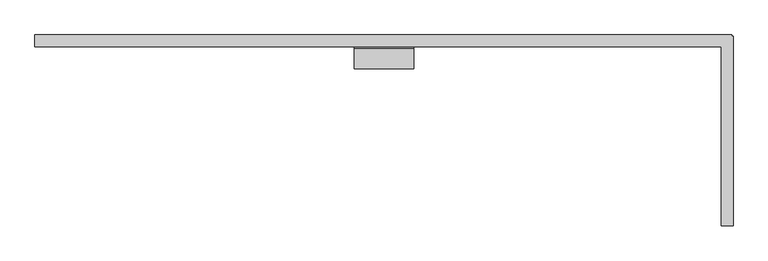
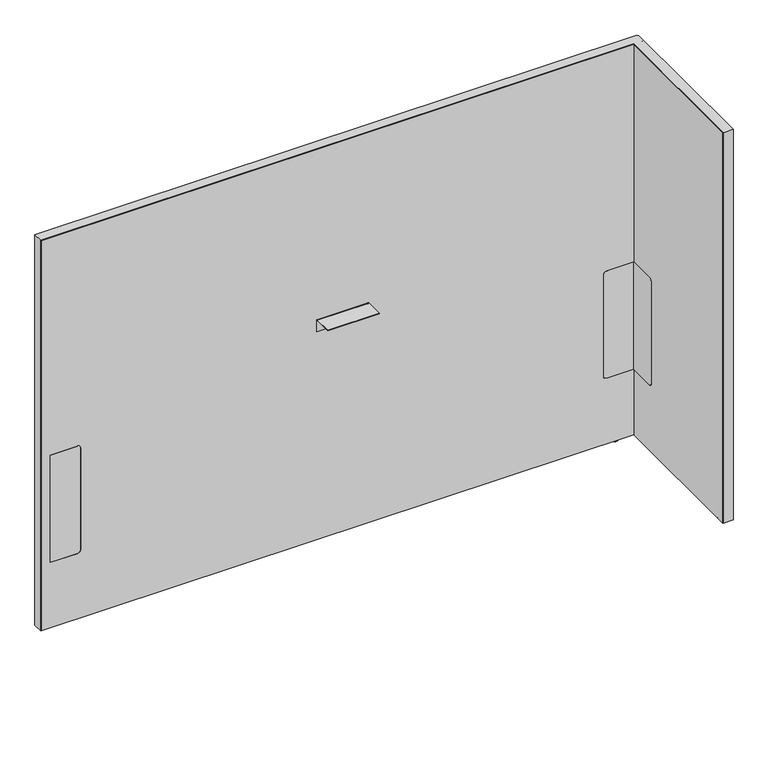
"""IFC4 building model written with IfcOpenShell, lengths in millimetres: furniture geometry, Steelcase - Answer Solution - Boundary Screen - L Return - Single Sided : 48H x 69W."""

from ifc_helpers import new_model, si_unit, point, frame, frame_2d, origin, place, context, project, spatial, polyline, circle_curve, ellipse_curve, trimmed, segment, composite_curve, outline, extrude, faceted_brep, source, transform, mapped, element, save
from ifc_brep_helpers import plane_surface, cylinder_surface, revolved_surface, advanced_brep


def furniture_feb51c63(model_context):
    return source(origin(), model_context, "Body", "SolidModel", [
        extrude(outline(composite_curve([segment(polyline([(-109.3501471, 549.6162029), (-29.0550397, 549.6162029), (-29.0550397, 213.7762137), (-109.3501471, 213.7762137)]), True, "CONTINUOUS"), segment(trimmed(circle_curve(frame_2d((-109.3501471, 223.9362137)), 10.16), [point((-109.3501471, 213.7762137))], [point((-119.5101471, 223.9362137))], False, "CARTESIAN"), True, "CONTINUOUS"), segment(polyline([(-119.5101471, 223.9362137), (-119.5101471, 539.4562029)]), True, "CONTINUOUS"), segment(trimmed(circle_curve(frame_2d((-109.3501471, 539.4562029)), 10.16), [point((-119.5101471, 539.4562029))], [point((-109.3501471, 549.6162029))], False, "CARTESIAN"), True, "CONTINUOUS")], self_intersect=False)), frame((1982.4191891, 0.0, 0.0), z_axis=(1.0, 0.0, 0.0), x_axis=(0.0, 1.0, 0.0)), (0.0, 0.0, 1.0), 0.6401544),
        advanced_brep(
        [(1997.2672074, -448.0136072, 0.0), (2004.2216144, -448.0136072, 0.0), (1990.3128003, -448.0136072, 0.0), (2005.6762685, -448.0136072, 1.2700001), (1988.8581463, -448.0136072, 1.2700001), (2005.6762685, -448.0136072, 2.9673238), (1988.8581463, -448.0136072, 2.9673238), (2006.6427877, -448.0136072, 2.9673238), (1987.891627, -448.0136072, 2.9673238), (2006.6427877, -448.0136072, 9.9059849), (1987.891627, -448.0136072, 9.9059849), (1997.2672074, -448.0136072, 9.9059849)],
        [
            (0, 1),
            (1, 2, circle_curve(frame((1997.2672074, -448.0136072, 0.0), z_axis=(0.0, 0.0, -1.0), x_axis=(1.0, 0.0, 0.0)), 6.9544071)),
            (2, 0),
            (2, 1, circle_curve(frame((1997.2672074, -448.0136072, 0.0), z_axis=(0.0, 0.0, -1.0), x_axis=(1.0, 0.0, 0.0)), 6.9544071)),
            (1, 3, circle_curve(frame((2004.3945484, -448.0136072, 1.2700001), z_axis=(0.0, -1.0, 0.0), x_axis=(0.0, 0.0, 1.0)), 1.2817201)),
            (3, 4, circle_curve(frame((1997.2672074, -448.0136072, 1.2700001), z_axis=(0.0, 0.0, -1.0), x_axis=(1.0, 0.0, 0.0)), 8.4090611)),
            (4, 2, circle_curve(frame((1990.1398663, -448.0136072, 1.2700001), z_axis=(0.0, -1.0, 0.0), x_axis=(0.0, 0.0, 1.0)), 1.2817201)),
            (4, 3, circle_curve(frame((1997.2672074, -448.0136072, 1.2700001), z_axis=(0.0, 0.0, -1.0), x_axis=(1.0, 0.0, 0.0)), 8.4090611)),
            (3, 5),
            (5, 6, circle_curve(frame((1997.2672074, -448.0136072, 2.9673238), z_axis=(0.0, 0.0, -1.0), x_axis=(1.0, 0.0, 0.0)), 8.4090611)),
            (6, 4),
            (6, 5, circle_curve(frame((1997.2672074, -448.0136072, 2.9673238), z_axis=(0.0, 0.0, -1.0), x_axis=(1.0, 0.0, 0.0)), 8.4090611)),
            (5, 7),
            (7, 8, circle_curve(frame((1997.2672074, -448.0136072, 2.9673238), z_axis=(0.0, 0.0, -1.0), x_axis=(1.0, 0.0, 0.0)), 9.3755804)),
            (8, 6),
            (8, 7, circle_curve(frame((1997.2672074, -448.0136072, 2.9673238), z_axis=(0.0, 0.0, -1.0), x_axis=(1.0, 0.0, 0.0)), 9.3755804)),
            (7, 9),
            (9, 10, circle_curve(frame((1997.2672074, -448.0136072, 9.9059849), z_axis=(0.0, 0.0, -1.0), x_axis=(1.0, 0.0, 0.0)), 9.3755804)),
            (10, 8),
            (10, 9, circle_curve(frame((1997.2672074, -448.0136072, 9.9059849), z_axis=(0.0, 0.0, -1.0), x_axis=(1.0, 0.0, 0.0)), 9.3755804)),
            (9, 11),
            (11, 10),
        ],
        [
            plane_surface(frame((1997.2672074, -448.0136072, 0.0), z_axis=(0.0, 0.0, -1.0), x_axis=(1.0, 0.0, 0.0))),
            revolved_surface(trimmed(ellipse_curve(frame((2004.3945484, -448.0136072, 1.2700001), z_axis=(0.0, 1.0, 0.0), x_axis=(0.0, 0.0, 1.0)), 1.2817201, 1.2817201), [point((2005.6762685, -448.0136072, 1.2700001))], [point((2004.2216144, -448.0136072, 0.0))], True, "CARTESIAN"), (1997.2672074, -448.0136072, 9.9059849), (0.0, 0.0, -1.0)),
            cylinder_surface(frame((1997.2672074, -448.0136072, 9.9059849), z_axis=(0.0, 0.0, -1.0), x_axis=(1.0, 0.0, 0.0)), 8.4090611),
            plane_surface(frame((1997.2672074, -448.0136072, 2.9673238), z_axis=(0.0, 0.0, -1.0), x_axis=(1.0, 0.0, 0.0))),
            cylinder_surface(frame((1997.2672074, -448.0136072, 9.9059849), z_axis=(0.0, 0.0, -1.0), x_axis=(1.0, 0.0, 0.0)), 9.3755804),
            plane_surface(frame((1997.2672074, -448.0136072, 9.9059849), z_axis=(0.0, 0.0, 1.0), x_axis=(1.0, 0.0, 0.0))),
        ],
        [
            (0, [[1, 2, 3]]),
            (0, [[-3, 4, -1]]),
            (1, [[-2, 5, 6, 7]]),
            (1, [[-4, -7, 8, -5]]),
            (2, [[-6, 9, 10, 11]]),
            (2, [[-8, -11, 12, -9]]),
            (3, [[-10, 13, 14, 15]]),
            (3, [[-12, -15, 16, -13]]),
            (4, [[-14, 17, 18, 19]]),
            (4, [[-16, -19, 20, -17]]),
            (5, [[-18, 21, 22]]),
            (5, [[-20, -22, -21]]),
        ],
    ),
        faceted_brep([(2008.8531179, 0.0, 1230.122), (2008.8531179, 0.0, 9.9059849), (2007.8621491, 0.0, 9.9059849), (2007.8621491, 0.0, 1229.142118), (230.8097779, 0.0, 1229.142118), (230.8097779, 0.0, 9.9059849), (229.8191891, 0.0, 9.9059849), (229.8191891, 0.0, 1230.122), (229.8191891, -29.6898332, 1230.122), (229.8191891, -29.6898332, 9.9059849), (230.8097779, -29.6898332, 9.9059849), (230.8097779, -29.6898332, 1229.142118), (1982.4191891, -29.6898332, 1229.142118), (1982.4191891, -29.6898332, 1230.122), (2007.8621491, -29.6898332, 1229.142118), (2007.8621491, -29.6898332, 9.9059849), (2008.8531179, -29.6898332, 9.9059849), (2008.8531179, -29.6898332, 1229.142118), (2008.8531179, -3.2625916, 1230.122), (2008.8531179, -3.2625916, 9.9059849), (2008.8531179, -4.252647, 9.9059849), (2008.8531179, -4.252647, 1229.142118), (2012.1152256, -3.2625916, 9.9059849), (2012.1152256, -4.252647, 9.9059849), (2007.8621491, -4.252647, 9.9059849), (1982.4191891, -4.252647, 9.9059849), (1982.4191891, -3.2625916, 9.9059849), (2007.8621491, -3.2625916, 9.9059849), (1982.4191891, -486.8898332, 1230.122), (2012.1152256, -486.8898332, 1230.122), (2012.1152256, -3.2625916, 1230.122), (2007.8621491, -3.2625916, 1229.142118), (2007.8621491, -4.252647, 1229.142118), (1982.4191891, -3.2625916, 1229.142118), (1982.4191891, -4.252647, 1229.142118), (2012.1152256, -4.252647, 1229.142118), (2012.1152256, -485.899196, 1229.142118), (1982.4191891, -485.899196, 1229.142118), (1982.4191891, -485.899196, 9.9059849), (1982.4191891, -486.8898332, 9.9059849), (2012.1152256, -486.8898332, 9.9059849), (2012.1152256, -485.899196, 9.9059849)], [[[0, 1, 2, 3, 4, 5, 6, 7]], [[8, 9, 10, 11, 12, 13]], [[14, 15, 16, 17]], [[1, 0, 18, 19]], [[17, 16, 20, 21]], [[2, 1, 19, 22, 23, 20, 16, 15, 24, 25, 26, 27]], [[7, 6, 9, 8]], [[0, 7, 8, 13, 28, 29, 30, 18]], [[3, 2, 27, 31]], [[15, 14, 32, 24]], [[4, 3, 31, 33, 34, 32, 14, 17, 21, 35, 36, 37, 12, 11]], [[5, 4, 11, 10]], [[6, 5, 10, 9]], [[26, 25, 34, 33]], [[37, 38, 39, 28, 13, 12]], [[29, 40, 41, 36, 35, 23, 22, 30]], [[27, 26, 33, 31]], [[30, 22, 19, 18]], [[34, 25, 24, 32]], [[23, 35, 21, 20]], [[38, 37, 36, 41]], [[39, 38, 41, 40]], [[28, 39, 40, 29]]]),
        extrude(outline(composite_curve([segment(polyline([(-86.8398151, 696.4680019), (-86.8398151, 698.5), (-34.9450855, 698.5)]), True, "CONTINUOUS"), segment(trimmed(circle_curve(frame_2d((-34.9450855, 693.2447477)), 5.2552523), [point((-34.9450855, 698.5))], [point((-29.6898332, 693.2447477))], False, "CARTESIAN"), True, "CONTINUOUS"), segment(polyline([(-29.6898332, 693.2447477), (-29.6898332, 660.4), (-31.7218162, 660.4), (-31.7218162, 693.0058743)]), True, "CONTINUOUS"), segment(trimmed(circle_curve(frame_2d((-35.1839438, 693.0058743)), 3.4621276), [point((-31.7218162, 693.0058743))], [point((-35.1839438, 696.4680019))], True, "CARTESIAN"), True, "CONTINUOUS"), segment(polyline([(-35.1839438, 696.4680019), (-86.8398151, 696.4680019)]), True, "CONTINUOUS")], self_intersect=False)), frame((1044.7685899, 0.0, 0.0), z_axis=(1.0, 0.0, 0.0), x_axis=(0.0, 1.0, 0.0)), (0.0, 0.0, 1.0), 152.4000969),
        advanced_brep(
        [(1934.9246853, -23.7588726, 9.9059849), (1934.9246853, -5.9309607, 9.9059849), (1934.9246853, -14.8449166, 9.9059849), (1934.9246853, -23.7588726, 2.9673238), (1934.9246853, -5.9309607, 2.9673238), (1934.9246853, -22.7915354, 2.9673238), (1934.9246853, -6.8982978, 2.9673238), (1934.9246853, -22.7915354, 1.6569081), (1934.9246853, -6.8982978, 1.6569081), (1934.9246853, -21.1346274, 0.0), (1934.9246853, -8.5552059, 0.0), (1934.9246853, -14.8449166, 0.0)],
        [
            (0, 1, circle_curve(frame((1934.9246853, -14.8449166, 9.9059849), z_axis=(0.0, 0.0, 1.0), x_axis=(0.0, 1.0, 0.0)), 8.913956)),
            (1, 2),
            (2, 0),
            (1, 0, circle_curve(frame((1934.9246853, -14.8449166, 9.9059849), z_axis=(0.0, 0.0, 1.0), x_axis=(0.0, 1.0, 0.0)), 8.913956)),
            (3, 4, circle_curve(frame((1934.9246853, -14.8449166, 2.9673238), z_axis=(0.0, 0.0, 1.0), x_axis=(0.0, 1.0, 0.0)), 8.913956)),
            (4, 1),
            (0, 3),
            (4, 3, circle_curve(frame((1934.9246853, -14.8449166, 2.9673238), z_axis=(0.0, 0.0, 1.0), x_axis=(0.0, 1.0, 0.0)), 8.913956)),
            (5, 6, circle_curve(frame((1934.9246853, -14.8449166, 2.9673238), z_axis=(0.0, 0.0, 1.0), x_axis=(0.0, 1.0, 0.0)), 7.9466188)),
            (6, 4),
            (3, 5),
            (6, 5, circle_curve(frame((1934.9246853, -14.8449166, 2.9673238), z_axis=(0.0, 0.0, 1.0), x_axis=(0.0, 1.0, 0.0)), 7.9466188)),
            (7, 8, circle_curve(frame((1934.9246853, -14.8449166, 1.6569081), z_axis=(0.0, 0.0, 1.0), x_axis=(0.0, 1.0, 0.0)), 7.9466188)),
            (8, 6),
            (5, 7),
            (8, 7, circle_curve(frame((1934.9246853, -14.8449166, 1.6569081), z_axis=(0.0, 0.0, 1.0), x_axis=(0.0, 1.0, 0.0)), 7.9466188)),
            (9, 10, circle_curve(frame((1934.9246853, -14.8449166, 0.0), z_axis=(0.0, 0.0, 1.0), x_axis=(0.0, 1.0, 0.0)), 6.2897107)),
            (10, 8, circle_curve(frame((1934.9246853, -8.5552059, 1.6569081), z_axis=(1.0, 0.0, 0.0), x_axis=(0.0, 1.0, 0.0)), 1.6569081)),
            (7, 9, circle_curve(frame((1934.9246853, -21.1346274, 1.6569081), z_axis=(1.0, 0.0, 0.0), x_axis=(0.0, -1.0, 0.0)), 1.6569081)),
            (10, 9, circle_curve(frame((1934.9246853, -14.8449166, 0.0), z_axis=(0.0, 0.0, 1.0), x_axis=(0.0, 1.0, 0.0)), 6.2897107)),
            (11, 10),
            (9, 11),
        ],
        [
            plane_surface(frame((1934.9246853, -14.8449166, 9.9059849), z_axis=(0.0, 0.0, 1.0), x_axis=(0.0, 1.0, 0.0))),
            cylinder_surface(frame((1934.9246853, -14.8449166, 9.9059849), z_axis=(0.0, 0.0, -1.0), x_axis=(0.0, 1.0, 0.0)), 8.913956),
            plane_surface(frame((1934.9246853, -14.8449166, 2.9673238), z_axis=(0.0, 0.0, -1.0), x_axis=(0.0, 1.0, 0.0))),
            cylinder_surface(frame((1934.9246853, -14.8449166, 9.9059849), z_axis=(0.0, 0.0, -1.0), x_axis=(0.0, 1.0, 0.0)), 7.9466188),
            revolved_surface(trimmed(ellipse_curve(frame((1934.9246853, -8.5552059, 1.6569081), z_axis=(-1.0, 0.0, 0.0), x_axis=(0.0, 1.0, 0.0)), 1.6569081, 1.6569081), [point((1934.9246853, -6.8982978, 1.6569081))], [point((1934.9246853, -8.5552059, 0.0))], True, "CARTESIAN"), (1934.9246853, -14.8449166, 9.9059849), (0.0, 0.0, -1.0)),
            plane_surface(frame((1934.9246853, -14.8449166, 0.0), z_axis=(0.0, 0.0, -1.0), x_axis=(0.0, 1.0, 0.0))),
        ],
        [
            (0, [[1, 2, 3]]),
            (0, [[4, -3, -2]]),
            (1, [[5, 6, -1, 7]]),
            (1, [[8, -7, -4, -6]]),
            (2, [[9, 10, -5, 11]]),
            (2, [[12, -11, -8, -10]]),
            (3, [[13, 14, -9, 15]]),
            (3, [[16, -15, -12, -14]]),
            (4, [[17, 18, -13, 19]]),
            (4, [[20, -19, -16, -18]]),
            (5, [[21, -17, 22]]),
            (5, [[-22, -20, -21]]),
        ],
    ),
        advanced_brep(
        [(230.8097779, 0.0, 1229.142118), (2007.8621491, 0.0, 1229.142118), (2007.8621491, 0.0, 9.9059849), (230.8097779, 0.0, 9.9059849), (347.9483813, -29.0550397, 539.4562029), (337.7883813, -29.0550397, 549.6162029), (258.1344836, -29.0550397, 549.6162029), (258.1344836, -29.0550397, 213.7762137), (337.7883813, -29.0550397, 213.7762137), (347.9483813, -29.0550397, 223.9362137), (1983.0593435, -29.0550397, 213.7762137), (1983.0593435, -29.0550397, 549.6162029), (1902.5109268, -29.0550397, 549.6162029), (1892.3509268, -29.0550397, 539.4562029), (1892.3509268, -29.0550397, 223.9362137), (1902.5109268, -29.0550397, 213.7762137), (230.8097779, -29.6898332, 1229.142118), (230.8097779, -29.6898332, 9.9059849), (1982.4191891, -29.6898332, 9.9059849), (1982.4191891, -29.6898332, 213.7762137), (1902.5109268, -29.6898332, 213.7762137), (1892.3509268, -29.6898332, 223.9362137), (1892.3509268, -29.6898332, 539.4562029), (1902.5109268, -29.6898332, 549.6162029), (1982.4191891, -29.6898332, 549.6162029), (1982.4191891, -29.6898332, 1229.142118), (337.7883813, -29.6898332, 549.6162029), (347.9483813, -29.6898332, 539.4562029), (347.9483813, -29.6898332, 223.9362137), (337.7883813, -29.6898332, 213.7762137), (258.1344836, -29.6898332, 213.7762137), (258.1344836, -29.6898332, 549.6162029), (2007.8621491, -4.252647, 9.9059849), (2012.1152256, -4.252647, 9.9059849), (2012.1152256, -485.899196, 9.9059849), (1982.4191891, -485.899196, 9.9059849), (2007.8621491, -4.252647, 1229.142118), (1982.4191891, -485.899196, 1229.142118), (2012.1152256, -485.899196, 1229.142118), (2012.1152256, -4.252647, 1229.142118), (1983.0593435, -109.3501471, 549.6162029), (1982.4191891, -109.3501471, 549.6162029), (1983.0593435, -109.3501471, 213.7762137), (1983.0593435, -119.5101471, 223.9362137), (1983.0593435, -119.5101471, 539.4562029), (1982.4191891, -109.3501471, 213.7762137), (1982.4191891, -119.5101471, 539.4562029), (1982.4191891, -119.5101471, 223.9362137)],
        [
            (0, 1),
            (1, 2),
            (2, 3),
            (3, 0),
            (4, 5, circle_curve(frame((337.7883813, -29.0550397, 539.4562029), z_axis=(0.0, -1.0, 0.0), x_axis=(0.0, 0.0, 1.0)), 10.16)),
            (5, 6),
            (6, 7),
            (7, 8),
            (8, 9, circle_curve(frame((337.7883813, -29.0550397, 223.9362137), z_axis=(0.0, -1.0, 0.0), x_axis=(0.0, 0.0, 1.0)), 10.16)),
            (9, 4),
            (10, 11),
            (11, 12),
            (12, 13, circle_curve(frame((1902.5109268, -29.0550397, 539.4562029), z_axis=(0.0, -1.0, 0.0), x_axis=(0.0, 0.0, 1.0)), 10.16)),
            (13, 14),
            (14, 15, circle_curve(frame((1902.5109268, -29.0550397, 223.9362137), z_axis=(0.0, -1.0, 0.0), x_axis=(0.0, 0.0, 1.0)), 10.16)),
            (15, 10),
            (16, 17),
            (17, 18),
            (18, 19),
            (19, 20),
            (20, 21, circle_curve(frame((1902.5109268, -29.6898332, 223.9362137), z_axis=(0.0, 1.0, 0.0), x_axis=(0.0, 0.0, 1.0)), 10.16)),
            (21, 22),
            (22, 23, circle_curve(frame((1902.5109268, -29.6898332, 539.4562029), z_axis=(0.0, 1.0, 0.0), x_axis=(0.0, 0.0, 1.0)), 10.16)),
            (23, 24),
            (24, 25),
            (25, 16),
            (26, 27, circle_curve(frame((337.7883813, -29.6898332, 539.4562029), z_axis=(0.0, 1.0, 0.0), x_axis=(0.0, 0.0, 1.0)), 10.16)),
            (27, 28),
            (28, 29, circle_curve(frame((337.7883813, -29.6898332, 223.9362137), z_axis=(0.0, 1.0, 0.0), x_axis=(0.0, 0.0, 1.0)), 10.16)),
            (29, 30),
            (30, 31),
            (31, 26),
            (16, 0),
            (3, 17),
            (2, 32),
            (32, 33),
            (33, 34),
            (34, 35),
            (35, 18),
            (1, 36),
            (36, 32),
            (25, 37),
            (37, 38),
            (38, 39),
            (39, 36),
            (26, 5),
            (4, 27),
            (9, 28),
            (8, 29),
            (7, 30),
            (6, 31),
            (11, 40),
            (40, 41),
            (41, 24),
            (23, 12),
            (42, 43, circle_curve(frame((1983.0593435, -109.3501471, 223.9362137), z_axis=(-1.0, 0.0, 0.0), x_axis=(0.0, 1.0, 0.0)), 10.16)),
            (43, 44),
            (44, 40, circle_curve(frame((1983.0593435, -109.3501471, 539.4562029), z_axis=(-1.0, 0.0, 0.0), x_axis=(0.0, 1.0, 0.0)), 10.16)),
            (10, 42),
            (15, 20),
            (19, 45),
            (45, 42),
            (14, 21),
            (13, 22),
            (35, 37),
            (41, 46, circle_curve(frame((1982.4191891, -109.3501471, 539.4562029), z_axis=(1.0, 0.0, 0.0), x_axis=(0.0, 1.0, 0.0)), 10.16)),
            (46, 47),
            (47, 45, circle_curve(frame((1982.4191891, -109.3501471, 223.9362137), z_axis=(1.0, 0.0, 0.0), x_axis=(0.0, 1.0, 0.0)), 10.16)),
            (38, 34),
            (33, 39),
            (44, 46),
            (43, 47),
        ],
        [
            plane_surface(frame((347.9483813, 0.0, 549.6162029), z_axis=(0.0, 1.0, 0.0), x_axis=(0.0, 0.0, -1.0))),
            plane_surface(frame((347.9483813, -29.0550397, 549.6162029), z_axis=(0.0, -1.0, 0.0), x_axis=(0.0, 0.0, 1.0))),
            plane_surface(frame((2007.8621491, -29.6898332, 1229.142118), z_axis=(0.0, -1.0, 0.0), x_axis=(-1.0, 0.0, 0.0))),
            plane_surface(frame((230.8097779, 0.0, 9.9059849), z_axis=(-1.0, 0.0, 0.0), x_axis=(0.0, -1.0, 0.0))),
            plane_surface(frame((2007.8621491, 0.0, 9.9059849), z_axis=(0.0, 0.0, -1.0), x_axis=(0.0, -1.0, 0.0))),
            plane_surface(frame((2007.8621491, 0.0, 1229.142118), z_axis=(1.0, 0.0, 0.0), x_axis=(0.0, -1.0, 0.0))),
            plane_surface(frame((230.8097779, 0.0, 1229.142118), z_axis=(0.0, 0.0, 1.0), x_axis=(0.0, -1.0, 0.0))),
            revolved_surface(polyline([(337.7883813, -29.6898332, 549.6162029), (337.7883813, -29.0550397, 549.6162029)]), (337.7883813, -29.6898332, 539.4562029), (0.0, -1.0, 0.0)),
            plane_surface(frame((347.9483813, 0.0, 223.9362137), z_axis=(-1.0, 0.0, 0.0), x_axis=(0.0, -1.0, 0.0))),
            revolved_surface(polyline([(337.7883813, -29.6898332, 234.0962137), (337.7883813, -29.0550397, 234.0962137)]), (337.7883813, -29.6898332, 223.9362137), (0.0, -1.0, 0.0)),
            plane_surface(frame((258.1344836, 0.0, 213.7762137), z_axis=(0.0, 0.0, 1.0), x_axis=(0.0, -1.0, 0.0))),
            plane_surface(frame((258.1344836, 0.0, 549.6162029), z_axis=(1.0, 0.0, 0.0), x_axis=(0.0, -1.0, 0.0))),
            plane_surface(frame((337.7883813, 0.0, 549.6162029), z_axis=(0.0, 0.0, -1.0), x_axis=(0.0, -1.0, 0.0))),
            plane_surface(frame((1983.0593435, 0.0, 549.6162029), z_axis=(0.0, 0.0, -1.0), x_axis=(0.0, -1.0, 0.0))),
            plane_surface(frame((1983.0593435, 0.0, 213.7762137), z_axis=(-1.0, 0.0, 0.0), x_axis=(0.0, -1.0, 0.0))),
            plane_surface(frame((1902.5109268, 0.0, 213.7762137), z_axis=(0.0, 0.0, 1.0), x_axis=(0.0, -1.0, 0.0))),
            revolved_surface(polyline([(1902.5109268, -29.6898332, 234.0962137), (1902.5109268, -29.0550397, 234.0962137)]), (1902.5109268, -29.6898332, 223.9362137), (0.0, -1.0, 0.0)),
            plane_surface(frame((1892.3509268, 0.0, 539.4562029), z_axis=(1.0, 0.0, 0.0), x_axis=(0.0, -1.0, 0.0))),
            revolved_surface(polyline([(1902.5109268, -29.6898332, 549.6162029), (1902.5109268, -29.0550397, 549.6162029)]), (1902.5109268, -29.6898332, 539.4562029), (0.0, -1.0, 0.0)),
            plane_surface(frame((1982.4191891, -485.899196, 1229.142118), z_axis=(-1.0, 0.0, 0.0), x_axis=(0.0, 0.0, 1.0))),
            plane_surface(frame((2012.1152256, -485.899196, 1229.142118), z_axis=(1.0, 0.0, 0.0), x_axis=(0.0, 0.0, -1.0))),
            plane_surface(frame((2012.1152256, -4.252647, 9.9059849), z_axis=(0.0, 1.0, 0.0), x_axis=(-1.0, 0.0, 0.0))),
            plane_surface(frame((2012.1152256, -485.899196, 1229.142118), z_axis=(0.0, -1.0, 0.0), x_axis=(-1.0, 0.0, 0.0))),
            revolved_surface(polyline([(1982.4191891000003, -99.1901471, 539.4562029), (1983.0593435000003, -99.1901471, 539.4562029)]), (-340.6902705, -109.3501471, 539.4562029), (-1.0, 0.0, 0.0)),
            plane_surface(frame((2012.1152256, -119.5101471, 223.9362137), z_axis=(0.0, 1.0, 0.0), x_axis=(-1.0, 0.0, 0.0))),
            revolved_surface(polyline([(1982.4191891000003, -99.1901471, 223.9362137), (1983.0593435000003, -99.1901471, 223.9362137)]), (-340.6902705, -109.3501471, 223.9362137), (-1.0, 0.0, 0.0)),
        ],
        [
            (0, [[1, 2, 3, 4]]),
            (1, [[5, 6, 7, 8, 9, 10]]),
            (1, [[11, 12, 13, 14, 15, 16]]),
            (2, [[17, 18, 19, 20, 21, 22, 23, 24, 25, 26], [27, 28, 29, 30, 31, 32]]),
            (3, [[-17, 33, -4, 34]]),
            (4, [[-3, 35, 36, 37, 38, 39, -18, -34]]),
            (5, [[-2, 40, 41, -35]]),
            (6, [[-1, -33, -26, 42, 43, 44, 45, -40]]),
            (7, [[-27, 46, -5, 47]]),
            (8, [[-28, -47, -10, 48]]),
            (9, [[-29, -48, -9, 49]]),
            (10, [[-30, -49, -8, 50]]),
            (11, [[-31, -50, -7, 51]]),
            (12, [[-32, -51, -6, -46]]),
            (13, [[52, 53, 54, -24, 55, -12]]),
            (14, [[56, 57, 58, -52, -11, 59]]),
            (15, [[-59, -16, 60, -20, 61, 62]]),
            (16, [[-21, -60, -15, 63]]),
            (17, [[-22, -63, -14, 64]]),
            (18, [[-23, -64, -13, -55]]),
            (19, [[65, -42, -25, -54, 66, 67, 68, -61, -19, -39]]),
            (20, [[69, -37, 70, -44]]),
            (21, [[-70, -36, -41, -45]]),
            (22, [[-65, -38, -69, -43]]),
            (23, [[-66, -53, -58, 71]]),
            (24, [[-67, -71, -57, 72]]),
            (25, [[-68, -72, -56, -62]]),
        ],
    ),
        extrude(outline(composite_curve([segment(polyline([(549.6162029, 337.7883813), (549.6162029, 258.1344836), (213.7762137, 258.1344836), (213.7762137, 337.7883813)]), True, "CONTINUOUS"), segment(trimmed(circle_curve(frame_2d((223.9362137, 337.7883813)), 10.16), [point((213.7762137, 337.7883813))], [point((223.9362137, 347.9483813))], False, "CARTESIAN"), True, "CONTINUOUS"), segment(polyline([(223.9362137, 347.9483813), (539.4562029, 347.9483813)]), True, "CONTINUOUS"), segment(trimmed(circle_curve(frame_2d((539.4562029, 337.7883813)), 10.16), [point((539.4562029, 347.9483813))], [point((549.6162029, 337.7883813))], False, "CARTESIAN"), True, "CONTINUOUS")], self_intersect=False)), frame((0.0, -29.6898332, 0.0), z_axis=(0.0, 1.0, 0.0), x_axis=(0.0, 0.0, 1.0)), (0.0, 0.0, 1.0), 0.6347935),
        extrude(outline(composite_curve([segment(trimmed(circle_curve(frame_2d((539.4562029, 1902.5109268)), 10.16), [point((549.6162029, 1902.5109268))], [point((539.4562029, 1892.3509268))], False, "CARTESIAN"), True, "CONTINUOUS"), segment(polyline([(539.4562029, 1892.3509268), (223.9362137, 1892.3509268)]), True, "CONTINUOUS"), segment(trimmed(circle_curve(frame_2d((223.9362137, 1902.5109268)), 10.16), [point((223.9362137, 1892.3509268))], [point((213.7762137, 1902.5109268))], False, "CARTESIAN"), True, "CONTINUOUS"), segment(polyline([(213.7762137, 1902.5109268), (213.7762137, 1982.4191891), (549.6162029, 1982.4191891), (549.6162029, 1902.5109268)]), True, "CONTINUOUS")], self_intersect=False)), frame((0.0, -29.6898332, 0.0), z_axis=(0.0, 1.0, 0.0), x_axis=(0.0, 0.0, 1.0)), (0.0, 0.0, 1.0), 0.6347935),
    ])


if __name__ == "__main__":
    model = new_model("IFC4")
    model_context = context("Model", 3, world=origin())
    ifc_project = project(units=[si_unit("LENGTHUNIT", "METRE", prefix="MILLI")], contexts=[model_context])
    site = spatial("IfcSite", under=ifc_project)
    building = spatial("IfcBuilding", under=site)
    placement = place(None, origin())
    furniture_shape = furniture_feb51c63(model_context)
    element("IfcFurniture", 1, ObjectType="Steelcase - Answer Solution - Boundary Screen - L Return - Single Sided : 48H x 69W", at=placement, inside=building, context=model_context, shape_type="MappedRepresentation", body=[
        mapped(furniture_shape, transform((0.0, 0.0, 0.0), x_axis=(1.0, 0.0, 0.0), y_axis=(0.0, 1.0, 0.0), z_axis=(0.0, 0.0, 1.0))),
    ])
    save(model, "model.ifc")
